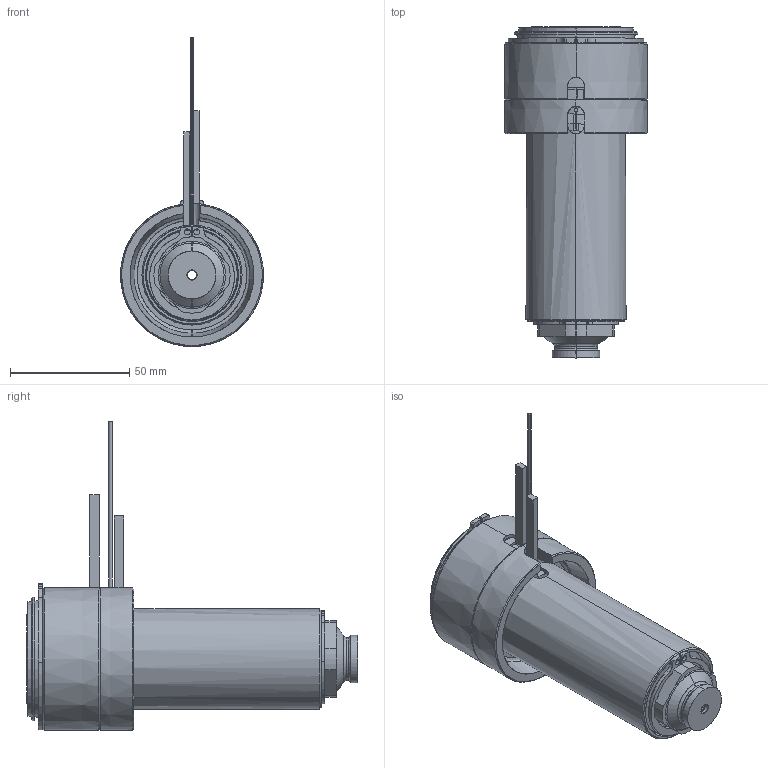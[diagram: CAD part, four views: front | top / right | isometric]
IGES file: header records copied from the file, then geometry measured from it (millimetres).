
Start section: SolidWorks IGES file using analytic representation for surfaces
Global section: file name: C:\Documents and Settings\ws-20\Desktop\TEM\UGER6604-M-A-1 [Øb-3.9 P-0 ØC-15].IGS; native system: SolidWorks 2012; preprocessor: SolidWorks 2012; author: ws-20; date: 120417.115839; units: millimetre
Bounding box: 60 x 139.25 x 129.65 mm (x, y, z)
Surface area: 79722.4 mm2 (no closed solid volume)
Topology: 0 solids, 0 shells, 166 faces, 3076 edges, 3076 vertices
Faces by surface type: revolution 98, bspline 68
